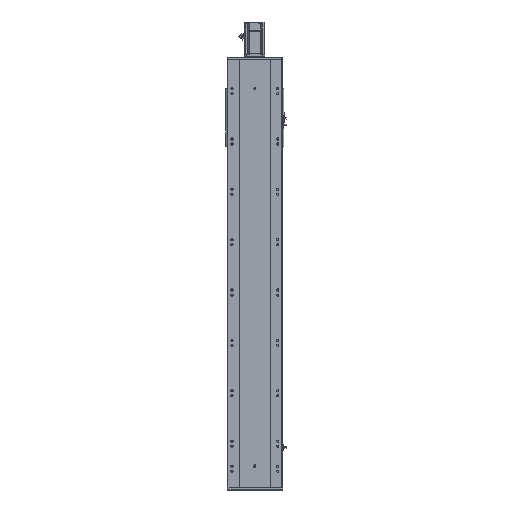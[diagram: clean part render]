
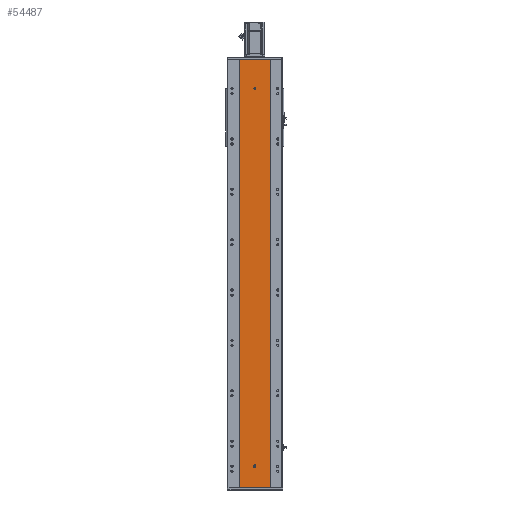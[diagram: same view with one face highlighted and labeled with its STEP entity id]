
A CAD part, front view. The second image highlights one B-rep face of the part: STEP entity #54487.
In plain terms, the highlighted planar face has unit normal (0, -1, 0).
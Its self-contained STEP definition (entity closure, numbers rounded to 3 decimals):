
#495 = CARTESIAN_POINT ( 'NONE',  ( -60., 0., 1700. ) ) ;
#1372 = VERTEX_POINT ( 'NONE', #24289 ) ;
#2505 = VECTOR ( 'NONE', #62159, 1000. ) ;
#3509 = ORIENTED_EDGE ( 'NONE', *, *, #64918, .F. ) ;
#4304 = LINE ( 'NONE', #10463, #2505 ) ;
#4818 = CARTESIAN_POINT ( 'NONE',  ( 4., 0., 84.5 ) ) ;
#5627 = EDGE_LOOP ( 'NONE', ( #15896, #39223, #3509, #61844 ) ) ;
#6281 = DIRECTION ( 'NONE',  ( 0., 0., -1. ) ) ;
#6659 = CARTESIAN_POINT ( 'NONE',  ( 4., 0., 84.5 ) ) ;
#6732 = EDGE_CURVE ( 'NONE', #12265, #18976, #20277, .T. ) ;
#7059 = CARTESIAN_POINT ( 'NONE',  ( -4., 0., 84.5 ) ) ;
#8407 = VERTEX_POINT ( 'NONE', #6659 ) ;
#8956 = DIRECTION ( 'NONE',  ( 1., 0., 0. ) ) ;
#8982 = CARTESIAN_POINT ( 'NONE',  ( 60., 0., 1700. ) ) ;
#10463 = CARTESIAN_POINT ( 'NONE',  ( -4., 0., 84.5 ) ) ;
#11509 = VECTOR ( 'NONE', #70023, 1000. ) ;
#12094 = LINE ( 'NONE', #31821, #50990 ) ;
#12265 = VERTEX_POINT ( 'NONE', #8982 ) ;
#14383 = ORIENTED_EDGE ( 'NONE', *, *, #71190, .F. ) ;
#14693 = ORIENTED_EDGE ( 'NONE', *, *, #42155, .F. ) ;
#14694 = FACE_OUTER_BOUND ( 'NONE', #5627, .T. ) ;
#15128 = CARTESIAN_POINT ( 'NONE',  ( -60., 0., 0. ) ) ;
#15357 = DIRECTION ( 'NONE',  ( 1., 0., 0. ) ) ;
#15381 = AXIS2_PLACEMENT_3D ( 'NONE', #35037, #41105, #64607 ) ;
#15896 = ORIENTED_EDGE ( 'NONE', *, *, #34241, .T. ) ;
#16283 = CARTESIAN_POINT ( 'NONE',  ( 0., 0., 1586. ) ) ;
#16361 = DIRECTION ( 'NONE',  ( 0., 1., 0. ) ) ;
#18819 = LINE ( 'NONE', #29505, #11509 ) ;
#18881 = DIRECTION ( 'NONE',  ( 0., -1., 0. ) ) ;
#18976 = VERTEX_POINT ( 'NONE', #54815 ) ;
#19118 = CARTESIAN_POINT ( 'NONE',  ( 0., 0., 84.5 ) ) ;
#19681 = CIRCLE ( 'NONE', #51447, 4. ) ;
#20277 = LINE ( 'NONE', #57167, #21213 ) ;
#20738 = VERTEX_POINT ( 'NONE', #52722 ) ;
#21213 = VECTOR ( 'NONE', #63282, 1000. ) ;
#22252 = ORIENTED_EDGE ( 'NONE', *, *, #70042, .F. ) ;
#23084 = AXIS2_PLACEMENT_3D ( 'NONE', #68559, #16361, #63438 ) ;
#23323 = AXIS2_PLACEMENT_3D ( 'NONE', #47405, #71252, #30491 ) ;
#24289 = CARTESIAN_POINT ( 'NONE',  ( 0., 0., 1582. ) ) ;
#25715 = LINE ( 'NONE', #15128, #43786 ) ;
#27120 = EDGE_CURVE ( 'NONE', #20738, #71879, #4304, .T. ) ;
#27780 = PLANE ( 'NONE',  #23084 ) ;
#27883 = EDGE_CURVE ( 'NONE', #45602, #36913, #18819, .T. ) ;
#28946 = CIRCLE ( 'NONE', #52355, 4. ) ;
#29431 = DIRECTION ( 'NONE',  ( 0., -1., 0. ) ) ;
#29505 = CARTESIAN_POINT ( 'NONE',  ( -60., 0., 1700. ) ) ;
#30491 = DIRECTION ( 'NONE',  ( 0., 0., -1. ) ) ;
#31821 = CARTESIAN_POINT ( 'NONE',  ( -60., 0., 1700. ) ) ;
#33506 = DIRECTION ( 'NONE',  ( 0., 0., -1. ) ) ;
#34241 = EDGE_CURVE ( 'NONE', #36913, #18976, #25715, .T. ) ;
#34586 = FACE_BOUND ( 'NONE', #47272, .T. ) ;
#35037 = CARTESIAN_POINT ( 'NONE',  ( 0., 0., 84.5 ) ) ;
#36913 = VERTEX_POINT ( 'NONE', #46506 ) ;
#38324 = CARTESIAN_POINT ( 'NONE',  ( 4., 0., 87.5 ) ) ;
#38837 = DIRECTION ( 'NONE',  ( 0., -1., 0. ) ) ;
#39147 = FACE_BOUND ( 'NONE', #60496, .T. ) ;
#39223 = ORIENTED_EDGE ( 'NONE', *, *, #6732, .F. ) ;
#40435 = EDGE_CURVE ( 'NONE', #1372, #53202, #28946, .T. ) ;
#41105 = DIRECTION ( 'NONE',  ( 0., -1., 0. ) ) ;
#41250 = CIRCLE ( 'NONE', #23323, 4. ) ;
#42155 = EDGE_CURVE ( 'NONE', #53202, #1372, #19681, .T. ) ;
#43786 = VECTOR ( 'NONE', #15357, 1000. ) ;
#45602 = VERTEX_POINT ( 'NONE', #495 ) ;
#46506 = CARTESIAN_POINT ( 'NONE',  ( -60., 0., 0. ) ) ;
#47272 = EDGE_LOOP ( 'NONE', ( #63510, #14383, #22252, #50852, #47334 ) ) ;
#47334 = ORIENTED_EDGE ( 'NONE', *, *, #59265, .F. ) ;
#47405 = CARTESIAN_POINT ( 'NONE',  ( 0., 0., 87.5 ) ) ;
#50852 = ORIENTED_EDGE ( 'NONE', *, *, #27120, .F. ) ;
#50990 = VECTOR ( 'NONE', #8956, 1000. ) ;
#51447 = AXIS2_PLACEMENT_3D ( 'NONE', #64080, #29431, #6281 ) ;
#51974 = CARTESIAN_POINT ( 'NONE',  ( 0., 0., 1590. ) ) ;
#52355 = AXIS2_PLACEMENT_3D ( 'NONE', #16283, #38837, #33506 ) ;
#52722 = CARTESIAN_POINT ( 'NONE',  ( -4., 0., 87.5 ) ) ;
#53202 = VERTEX_POINT ( 'NONE', #51974 ) ;
#54487 = ADVANCED_FACE ( 'NONE', ( #39147, #34586, #14694 ), #27780, .F. ) ;
#54815 = CARTESIAN_POINT ( 'NONE',  ( 60., 0., 0. ) ) ;
#57167 = CARTESIAN_POINT ( 'NONE',  ( 60., 0., 1700. ) ) ;
#59148 = VECTOR ( 'NONE', #62353, 1000. ) ;
#59265 = EDGE_CURVE ( 'NONE', #62014, #20738, #41250, .T. ) ;
#60413 = EDGE_CURVE ( 'NONE', #8407, #62014, #74622, .T. ) ;
#60496 = EDGE_LOOP ( 'NONE', ( #64641, #14693 ) ) ;
#61038 = CIRCLE ( 'NONE', #70310, 4. ) ;
#61844 = ORIENTED_EDGE ( 'NONE', *, *, #27883, .T. ) ;
#62003 = VERTEX_POINT ( 'NONE', #67680 ) ;
#62014 = VERTEX_POINT ( 'NONE', #38324 ) ;
#62159 = DIRECTION ( 'NONE',  ( 0., 0., -1. ) ) ;
#62218 = CIRCLE ( 'NONE', #15381, 4. ) ;
#62353 = DIRECTION ( 'NONE',  ( 0., 0., 1. ) ) ;
#63282 = DIRECTION ( 'NONE',  ( 0., 0., -1. ) ) ;
#63438 = DIRECTION ( 'NONE',  ( 0., 0., 1. ) ) ;
#63510 = ORIENTED_EDGE ( 'NONE', *, *, #60413, .F. ) ;
#64080 = CARTESIAN_POINT ( 'NONE',  ( 0., 0., 1586. ) ) ;
#64607 = DIRECTION ( 'NONE',  ( 0., 0., -1. ) ) ;
#64641 = ORIENTED_EDGE ( 'NONE', *, *, #40435, .F. ) ;
#64918 = EDGE_CURVE ( 'NONE', #45602, #12265, #12094, .T. ) ;
#65181 = DIRECTION ( 'NONE',  ( 0., 0., -1. ) ) ;
#67680 = CARTESIAN_POINT ( 'NONE',  ( 0., 0., 80.5 ) ) ;
#68559 = CARTESIAN_POINT ( 'NONE',  ( -60., 0., 1700. ) ) ;
#70023 = DIRECTION ( 'NONE',  ( 0., 0., -1. ) ) ;
#70042 = EDGE_CURVE ( 'NONE', #71879, #62003, #62218, .T. ) ;
#70310 = AXIS2_PLACEMENT_3D ( 'NONE', #19118, #18881, #65181 ) ;
#71190 = EDGE_CURVE ( 'NONE', #62003, #8407, #61038, .T. ) ;
#71252 = DIRECTION ( 'NONE',  ( 0., -1., 0. ) ) ;
#71879 = VERTEX_POINT ( 'NONE', #7059 ) ;
#74622 = LINE ( 'NONE', #4818, #59148 ) ;
